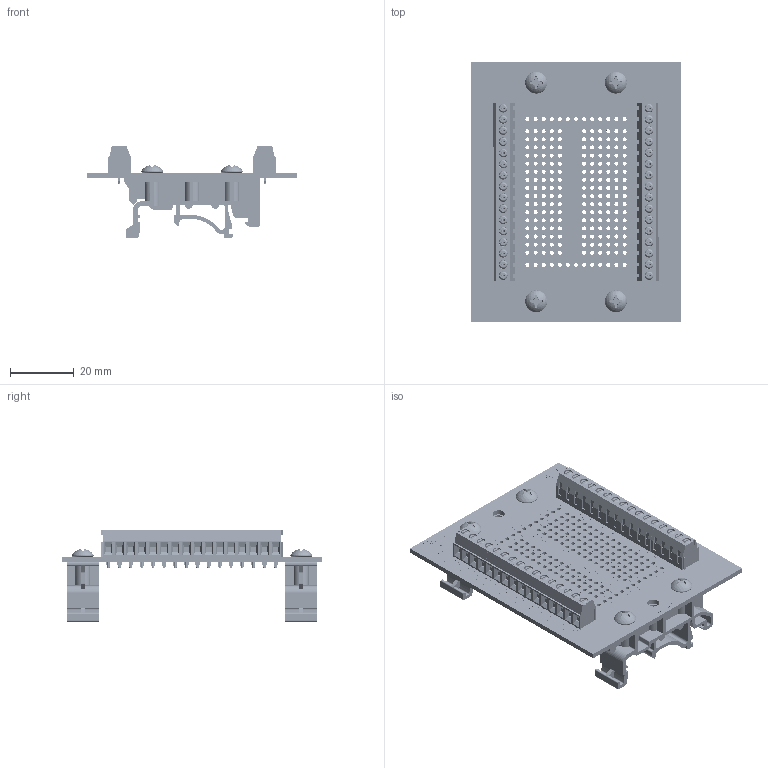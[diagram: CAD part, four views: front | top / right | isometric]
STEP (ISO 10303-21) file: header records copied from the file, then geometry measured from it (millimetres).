
FILE_DESCRIPTION (( 'STEP AP214' ), '1' );
FILE_NAME ('dta3532v1-din.STEP', '2017-03-27T04:17:46', ( '' ), ( '' ), 'SwSTEP 2.0', 'SolidWorks 2017', '' );
FILE_SCHEMA (( 'AUTOMOTIVE_DESIGN' ));
Length unit declared in the file: inch
Products named in the file (6): Screw Terminal 3; Screw_SCSMPP-6-0.375_90184A127; Screw Terminal 2; dinm01; DTB3532 Board; dta3532v1-din
Assembly tree (19 placements, depth 2):
  dta3532v1-din
    DTB3532 Board
    Screw Terminal 2  x4
    Screw Terminal 3  x8
    Screw_SCSMPP-6-0.375_90184A127  x4
    dinm01  x2
Bounding box: 66.04 x 81.28 x 29.07 mm (x, y, z)
Volume: 19302.9 mm3; surface area: 28489.7 mm2
Topology: 19 solids, 19 shells, 6699 faces, 18192 edges, 12004 vertices
Faces by surface type: plane 4057, cylinder 1354, bspline 1108, cone 100, torus 72, sphere 8
Entity records: 211442 total; most frequent: CARTESIAN_POINT 83781, ORIENTED_EDGE 21208, DIRECTION 15735, EDGE_CURVE 10604, VERTEX_POINT 7048, VECTOR 6997, LINE 6997, EDGE_LOOP 4706
